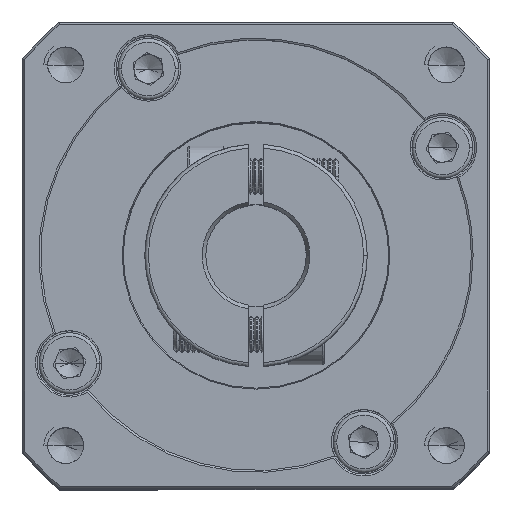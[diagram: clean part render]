
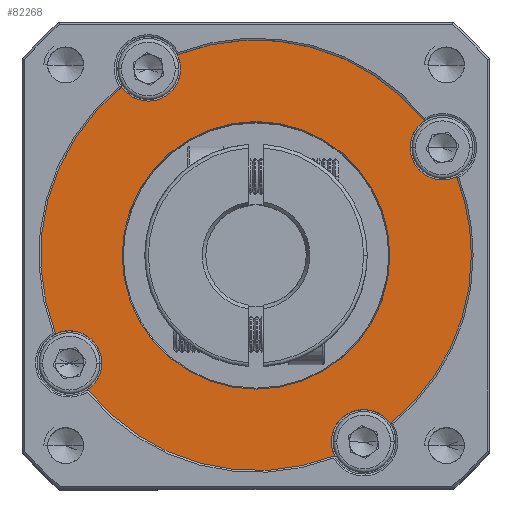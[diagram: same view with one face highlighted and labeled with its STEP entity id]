
A CAD part, top view. The second image highlights one B-rep face of the part: STEP entity #82268.
In plain terms, the highlighted planar face has unit normal (0, 0, 1).
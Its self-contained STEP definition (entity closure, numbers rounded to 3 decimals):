
#1032 = DIRECTION ( 'NONE',  ( 1., 0., 0. ) ) ;
#1861 = VERTEX_POINT ( 'NONE', #93983 ) ;
#2093 = EDGE_CURVE ( 'NONE', #32420, #92042, #88388, .T. ) ;
#3296 = DIRECTION ( 'NONE',  ( 1., 0., 0. ) ) ;
#4331 = AXIS2_PLACEMENT_3D ( 'NONE', #54236, #6503, #62285 ) ;
#6503 = DIRECTION ( 'NONE',  ( 0., 0., -1. ) ) ;
#6988 = CARTESIAN_POINT ( 'NONE',  ( -48.728, 29.687, 14.19 ) ) ;
#8468 = VERTEX_POINT ( 'NONE', #83069 ) ;
#9838 = AXIS2_PLACEMENT_3D ( 'NONE', #57863, #10125, #65875 ) ;
#10125 = DIRECTION ( 'NONE',  ( 0., 0., 1. ) ) ;
#10527 = EDGE_CURVE ( 'NONE', #93181, #65999, #28302, .T. ) ;
#11747 = AXIS2_PLACEMENT_3D ( 'NONE', #29059, #84824, #37069 ) ;
#14986 = DIRECTION ( 'NONE',  ( 1., 0., 0. ) ) ;
#15462 = CIRCLE ( 'NONE', #16649, 30. ) ;
#15887 = CARTESIAN_POINT ( 'NONE',  ( -67.445, 53.132, 14.19 ) ) ;
#15973 = DIRECTION ( 'NONE',  ( 0., 0., 1. ) ) ;
#16649 = AXIS2_PLACEMENT_3D ( 'NONE', #33694, #89376, #41649 ) ;
#17521 = CARTESIAN_POINT ( 'NONE',  ( -20.796, 40.632, 14.19 ) ) ;
#18787 = CIRCLE ( 'NONE', #25059, 4.5 ) ;
#19801 = EDGE_CURVE ( 'NONE', #92042, #32420, #100265, .T. ) ;
#21094 = CIRCLE ( 'NONE', #84209, 4.5 ) ;
#21602 = DIRECTION ( 'NONE',  ( 0., 0., 1. ) ) ;
#22613 = FACE_OUTER_BOUND ( 'NONE', #39531, .T. ) ;
#25059 = AXIS2_PLACEMENT_3D ( 'NONE', #86958, #39167, #94901 ) ;
#25652 = ORIENTED_EDGE ( 'NONE', *, *, #63350, .F. ) ;
#26102 = DIRECTION ( 'NONE',  ( 0., 0., -1. ) ) ;
#27482 = VERTEX_POINT ( 'NONE', #45396 ) ;
#27874 = DIRECTION ( 'NONE',  ( 0., 0., 1. ) ) ;
#28302 = CIRCLE ( 'NONE', #37030, 4.5 ) ;
#29059 = CARTESIAN_POINT ( 'NONE',  ( -63.728, 55.668, 14.19 ) ) ;
#29303 = EDGE_CURVE ( 'NONE', #65999, #52231, #52047, .T. ) ;
#31054 = CARTESIAN_POINT ( 'NONE',  ( -48.728, 29.687, 14.19 ) ) ;
#32420 = VERTEX_POINT ( 'NONE', #80628 ) ;
#32621 = CARTESIAN_POINT ( 'NONE',  ( -18.728, 29.687, 14.19 ) ) ;
#33117 = VERTEX_POINT ( 'NONE', #43833 ) ;
#33694 = CARTESIAN_POINT ( 'NONE',  ( -48.728, 29.687, 14.19 ) ) ;
#34471 = ORIENTED_EDGE ( 'NONE', *, *, #99752, .F. ) ;
#34678 = CIRCLE ( 'NONE', #62308, 4.5 ) ;
#34879 = VERTEX_POINT ( 'NONE', #35235 ) ;
#35203 = CARTESIAN_POINT ( 'NONE',  ( -59.228, 55.668, 14.19 ) ) ;
#35235 = CARTESIAN_POINT ( 'NONE',  ( -30.01, 6.243, 14.19 ) ) ;
#35356 = AXIS2_PLACEMENT_3D ( 'NONE', #90672, #42956, #98639 ) ;
#35552 = VERTEX_POINT ( 'NONE', #54578 ) ;
#36191 = CARTESIAN_POINT ( 'NONE',  ( -63.728, 55.668, 14.19 ) ) ;
#36368 = ORIENTED_EDGE ( 'NONE', *, *, #78141, .T. ) ;
#37030 = AXIS2_PLACEMENT_3D ( 'NONE', #96470, #48765, #1032 ) ;
#37069 = DIRECTION ( 'NONE',  ( 1., 0., 0. ) ) ;
#37276 = PLANE ( 'NONE',  #49840 ) ;
#38806 = CARTESIAN_POINT ( 'NONE',  ( -76.66, 18.742, 14.19 ) ) ;
#39046 = DIRECTION ( 'NONE',  ( 1., 0., 0. ) ) ;
#39167 = DIRECTION ( 'NONE',  ( 0., 0., 1. ) ) ;
#39531 = EDGE_LOOP ( 'NONE', ( #63920, #85546, #42253, #25652, #36368, #79748, #90623, #93531, #40367, #34471, #80397, #47293, #73151 ) ) ;
#39935 = AXIS2_PLACEMENT_3D ( 'NONE', #31054, #86819, #39046 ) ;
#40367 = ORIENTED_EDGE ( 'NONE', *, *, #57103, .T. ) ;
#40826 = CIRCLE ( 'NONE', #46747, 4.5 ) ;
#41175 = CARTESIAN_POINT ( 'NONE',  ( -30.083, 29.687, 14.19 ) ) ;
#41184 = CIRCLE ( 'NONE', #9838, 4.5 ) ;
#41466 = EDGE_CURVE ( 'NONE', #35552, #100826, #41184, .T. ) ;
#41649 = DIRECTION ( 'NONE',  ( 1., 0., 0. ) ) ;
#42253 = ORIENTED_EDGE ( 'NONE', *, *, #70976, .F. ) ;
#42920 = AXIS2_PLACEMENT_3D ( 'NONE', #6988, #62756, #14986 ) ;
#42956 = DIRECTION ( 'NONE',  ( 0., 0., 1. ) ) ;
#43269 = EDGE_CURVE ( 'NONE', #93181, #33117, #15462, .T. ) ;
#43667 = VERTEX_POINT ( 'NONE', #15887 ) ;
#43678 = VERTEX_POINT ( 'NONE', #32621 ) ;
#43833 = CARTESIAN_POINT ( 'NONE',  ( -37.783, 1.755, 14.19 ) ) ;
#44122 = DIRECTION ( 'NONE',  ( 1., 0., 0. ) ) ;
#45396 = CARTESIAN_POINT ( 'NONE',  ( -59.673, 57.62, 14.19 ) ) ;
#45400 = EDGE_CURVE ( 'NONE', #8468, #35552, #34678, .T. ) ;
#45773 = CARTESIAN_POINT ( 'NONE',  ( -33.728, 3.707, 14.19 ) ) ;
#46747 = AXIS2_PLACEMENT_3D ( 'NONE', #36191, #91846, #44122 ) ;
#47293 = ORIENTED_EDGE ( 'NONE', *, *, #86511, .T. ) ;
#48100 = CARTESIAN_POINT ( 'NONE',  ( -72.173, 10.97, 14.19 ) ) ;
#48765 = DIRECTION ( 'NONE',  ( 0., 0., 1. ) ) ;
#49840 = AXIS2_PLACEMENT_3D ( 'NONE', #69311, #21602, #77328 ) ;
#50311 = CIRCLE ( 'NONE', #39935, 30. ) ;
#50755 = AXIS2_PLACEMENT_3D ( 'NONE', #75582, #27874, #83606 ) ;
#51064 = DIRECTION ( 'NONE',  ( 0., 0., 1. ) ) ;
#52047 = CIRCLE ( 'NONE', #50755, 4.5 ) ;
#52231 = VERTEX_POINT ( 'NONE', #38806 ) ;
#53250 = EDGE_LOOP ( 'NONE', ( #90862, #61063 ) ) ;
#53830 = DIRECTION ( 'NONE',  ( 1., 0., 0. ) ) ;
#54236 = CARTESIAN_POINT ( 'NONE',  ( -48.728, 29.687, 14.19 ) ) ;
#54578 = CARTESIAN_POINT ( 'NONE',  ( -27.247, 44.687, 14.19 ) ) ;
#57103 = EDGE_CURVE ( 'NONE', #8468, #27482, #96780, .T. ) ;
#57723 = CIRCLE ( 'NONE', #11747, 4.5 ) ;
#57863 = CARTESIAN_POINT ( 'NONE',  ( -22.747, 44.687, 14.19 ) ) ;
#61063 = ORIENTED_EDGE ( 'NONE', *, *, #2093, .T. ) ;
#62285 = DIRECTION ( 'NONE',  ( 1., 0., 0. ) ) ;
#62308 = AXIS2_PLACEMENT_3D ( 'NONE', #98694, #51064, #3296 ) ;
#62756 = DIRECTION ( 'NONE',  ( 0., 0., 1. ) ) ;
#63350 = EDGE_CURVE ( 'NONE', #34879, #1861, #21094, .T. ) ;
#63744 = CARTESIAN_POINT ( 'NONE',  ( -48.728, 29.687, 14.19 ) ) ;
#63920 = ORIENTED_EDGE ( 'NONE', *, *, #10527, .F. ) ;
#64052 = CIRCLE ( 'NONE', #35356, 30. ) ;
#65875 = DIRECTION ( 'NONE',  ( 1., 0., 0. ) ) ;
#65999 = VERTEX_POINT ( 'NONE', #101319 ) ;
#67535 = EDGE_CURVE ( 'NONE', #43678, #100826, #50311, .T. ) ;
#69245 = VERTEX_POINT ( 'NONE', #35203 ) ;
#69311 = CARTESIAN_POINT ( 'NONE',  ( -48.728, 29.687, 14.19 ) ) ;
#70976 = EDGE_CURVE ( 'NONE', #1861, #33117, #18787, .T. ) ;
#71718 = DIRECTION ( 'NONE',  ( 1., 0., 0. ) ) ;
#73151 = ORIENTED_EDGE ( 'NONE', *, *, #29303, .F. ) ;
#73821 = CARTESIAN_POINT ( 'NONE',  ( -48.728, 29.687, 14.19 ) ) ;
#75582 = CARTESIAN_POINT ( 'NONE',  ( -74.709, 14.687, 14.19 ) ) ;
#77328 = DIRECTION ( 'NONE',  ( 1., 0., 0. ) ) ;
#78141 = EDGE_CURVE ( 'NONE', #34879, #43678, #64052, .T. ) ;
#79748 = ORIENTED_EDGE ( 'NONE', *, *, #67535, .T. ) ;
#80397 = ORIENTED_EDGE ( 'NONE', *, *, #97680, .F. ) ;
#80628 = CARTESIAN_POINT ( 'NONE',  ( -67.372, 29.687, 14.19 ) ) ;
#81820 = DIRECTION ( 'NONE',  ( 1., 0., 0. ) ) ;
#82268 = ADVANCED_FACE ( 'NONE', ( #102304, #22613 ), #37276, .T. ) ;
#83069 = CARTESIAN_POINT ( 'NONE',  ( -25.283, 48.405, 14.19 ) ) ;
#83606 = DIRECTION ( 'NONE',  ( 1., 0., 0. ) ) ;
#84209 = AXIS2_PLACEMENT_3D ( 'NONE', #45773, #101446, #53830 ) ;
#84824 = DIRECTION ( 'NONE',  ( 0., 0., 1. ) ) ;
#85546 = ORIENTED_EDGE ( 'NONE', *, *, #43269, .T. ) ;
#86511 = EDGE_CURVE ( 'NONE', #43667, #52231, #86959, .T. ) ;
#86819 = DIRECTION ( 'NONE',  ( 0., 0., 1. ) ) ;
#86958 = CARTESIAN_POINT ( 'NONE',  ( -33.728, 3.707, 14.19 ) ) ;
#86959 = CIRCLE ( 'NONE', #100860, 30. ) ;
#88388 = CIRCLE ( 'NONE', #101182, 18.644 ) ;
#89376 = DIRECTION ( 'NONE',  ( 0., 0., 1. ) ) ;
#90623 = ORIENTED_EDGE ( 'NONE', *, *, #41466, .F. ) ;
#90672 = CARTESIAN_POINT ( 'NONE',  ( -48.728, 29.687, 14.19 ) ) ;
#90862 = ORIENTED_EDGE ( 'NONE', *, *, #19801, .T. ) ;
#91846 = DIRECTION ( 'NONE',  ( 0., 0., 1. ) ) ;
#92042 = VERTEX_POINT ( 'NONE', #41175 ) ;
#93181 = VERTEX_POINT ( 'NONE', #48100 ) ;
#93531 = ORIENTED_EDGE ( 'NONE', *, *, #45400, .F. ) ;
#93983 = CARTESIAN_POINT ( 'NONE',  ( -38.228, 3.707, 14.19 ) ) ;
#94901 = DIRECTION ( 'NONE',  ( 1., 0., 0. ) ) ;
#96470 = CARTESIAN_POINT ( 'NONE',  ( -74.709, 14.687, 14.19 ) ) ;
#96780 = CIRCLE ( 'NONE', #42920, 30. ) ;
#97680 = EDGE_CURVE ( 'NONE', #43667, #69245, #40826, .T. ) ;
#98639 = DIRECTION ( 'NONE',  ( 1., 0., 0. ) ) ;
#98694 = CARTESIAN_POINT ( 'NONE',  ( -22.747, 44.687, 14.19 ) ) ;
#99752 = EDGE_CURVE ( 'NONE', #69245, #27482, #57723, .T. ) ;
#100265 = CIRCLE ( 'NONE', #4331, 18.644 ) ;
#100826 = VERTEX_POINT ( 'NONE', #17521 ) ;
#100860 = AXIS2_PLACEMENT_3D ( 'NONE', #63744, #15973, #71718 ) ;
#101182 = AXIS2_PLACEMENT_3D ( 'NONE', #73821, #26102, #81820 ) ;
#101319 = CARTESIAN_POINT ( 'NONE',  ( -70.209, 14.687, 14.19 ) ) ;
#101446 = DIRECTION ( 'NONE',  ( 0., 0., 1. ) ) ;
#102304 = FACE_BOUND ( 'NONE', #53250, .T. ) ;
